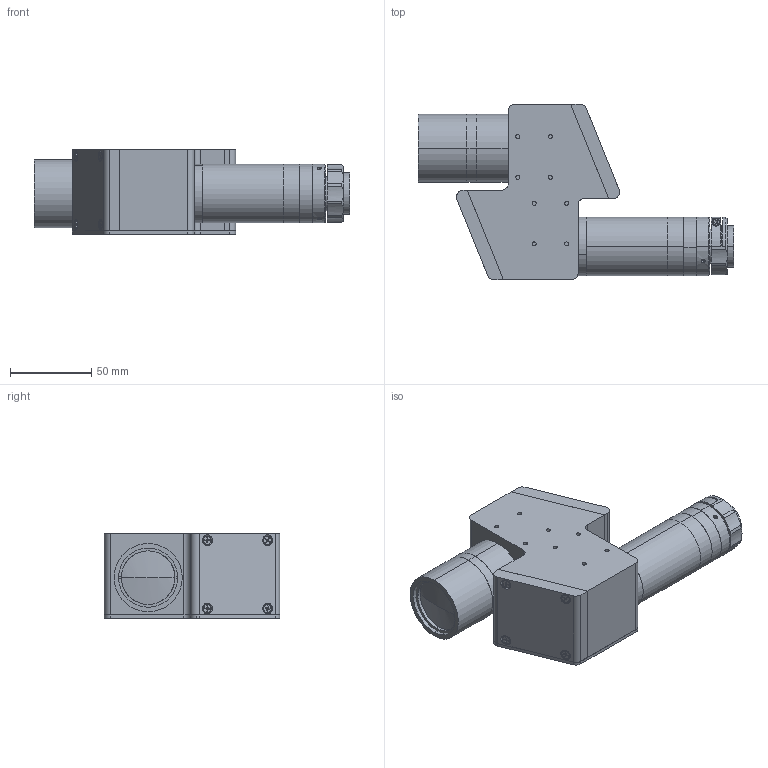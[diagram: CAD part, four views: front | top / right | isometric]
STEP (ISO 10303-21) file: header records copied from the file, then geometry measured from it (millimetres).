
FILE_DESCRIPTION (( 'STEP AP203' ), '1' );
FILE_NAME ('XF-MH1X288.STEP', '2020-08-24T07:17:28', ( 'canrill-02' ), ( '' ), 'SwSTEP 2.0', 'SolidWorks 2014', '' );
FILE_SCHEMA (( 'CONFIG_CONTROL_DESIGN' ));
Length unit declared in the file: millimetre
Products named in the file (1): XF-MH1X288
Bounding box: 194.47 x 108 x 52 mm (x, y, z)
Surface area: 60848.8 mm2 (no closed solid volume)
Topology: 0 solids, 33 shells, 412 faces, 1322 edges, 917 vertices
Faces by surface type: plane 208, cylinder 159, cone 41, sphere 2, torus 2
Entity records: 14913 total; most frequent: CARTESIAN_POINT 2971, DIRECTION 2597, ORIENTED_EDGE 2171, EDGE_CURVE 1320, VERTEX_POINT 917, AXIS2_PLACEMENT_3D 887, VECTOR 823, LINE 823
